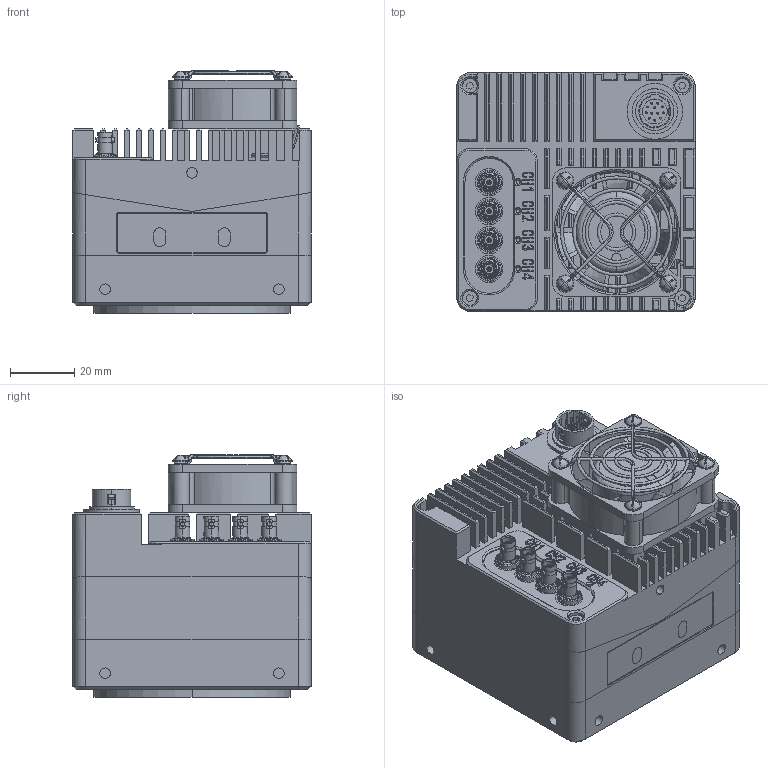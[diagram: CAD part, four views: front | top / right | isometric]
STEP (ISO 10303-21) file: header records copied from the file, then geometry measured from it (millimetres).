
FILE_DESCRIPTION (( 'STEP AP203' ), '1' );
FILE_NAME ('mars_hs_cxp_fan_74_74_11.48_m58_wz_user_s1.0.0.STEP', '2023-09-14T05:52:43', ( '' ), ( '' ), 'SwSTEP 2.0', 'SolidWorks 2016', '' );
FILE_SCHEMA (( 'CONFIG_CONTROL_DESIGN' ));
Length unit declared in the file: millimetre
Products named in the file (1): mars_hs_cxp_fan_74_74_11.48_m58_wz_user_s1.0.0
Bounding box: 74 x 74 x 75.45 mm (x, y, z)
Volume: 212050.5 mm3; surface area: 109171.8 mm2
Topology: 68 solids, 83 shells, 3699 faces, 9376 edges, 6082 vertices
Faces by surface type: plane 2106, cylinder 978, bspline 463, cone 138, sphere 8, torus 6
Entity records: 179981 total; most frequent: CARTESIAN_POINT 94245, ORIENTED_EDGE 18744, DIRECTION 16017, EDGE_CURVE 9372, VERTEX_POINT 6078, VECTOR 5863, LINE 5863, AXIS2_PLACEMENT_3D 5077
